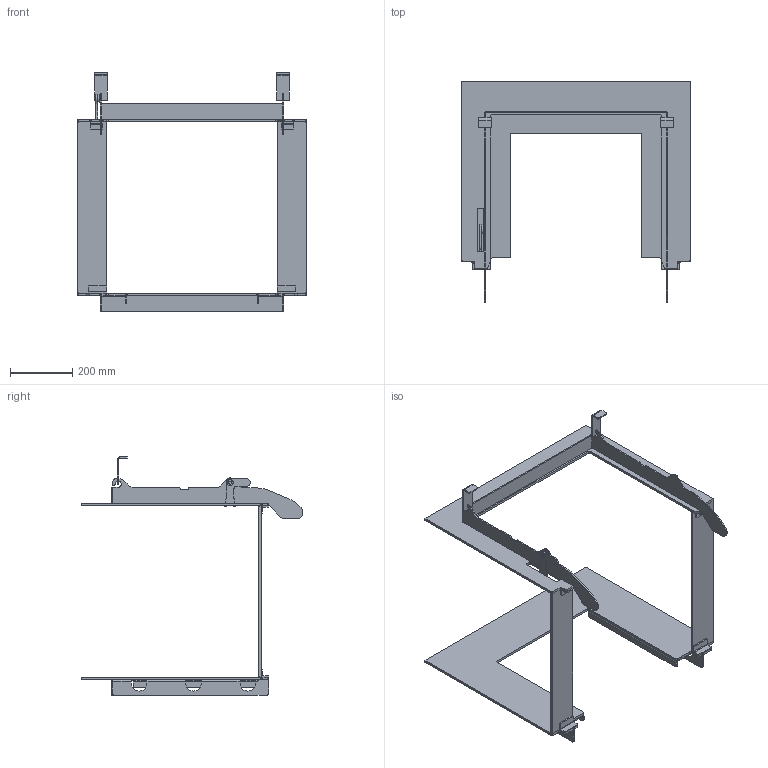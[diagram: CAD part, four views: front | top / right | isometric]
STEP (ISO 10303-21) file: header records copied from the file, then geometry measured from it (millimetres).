
FILE_DESCRIPTION(/* description */ (''),/* implementation_level */ '2;1');
FILE_NAME(/* name */ 'C:\ADSK_DM_WS\CAD_3D\03 Geraete\RIII 55x56x46\Zeichnungen\RIII_55x56x46_Einbaurahmen_geschraubt_Gen1_2017-03274.stp',/* time_stamp */ '2018-09-12T08:47:48+02:00',/* author */ ('cpi'),/* organization */ (''),/* preprocessor_version */ 'ST-DEVELOPER v17',/* originating_system */ 'Autodesk Inventor 2019',/* authorisation */ '');
FILE_SCHEMA (('AUTOMOTIVE_DESIGN { 1 0 10303 214 3 1 1 }'));
Length unit declared in the file: millimetre
Products named in the file (1): 2018-02175
Bounding box: 735 x 715.25 x 768 mm (x, y, z)
Volume: 5250735.5 mm3; surface area: 1552773.8 mm2
Topology: 2 solids, 2 shells, 520 faces, 1470 edges, 922 vertices
Faces by surface type: plane 280, cylinder 226, bspline 12, cone 2
Full cylindrical faces by diameter (mm): 10 x1, 10.21 x1, 20 x1, 25 x2
Entity records: 17391 total; most frequent: CARTESIAN_POINT 3197, ORIENTED_EDGE 2940, DIRECTION 2923, EDGE_CURVE 1470, AXIS2_PLACEMENT_3D 976, LINE 971, VECTOR 971, VERTEX_POINT 922
